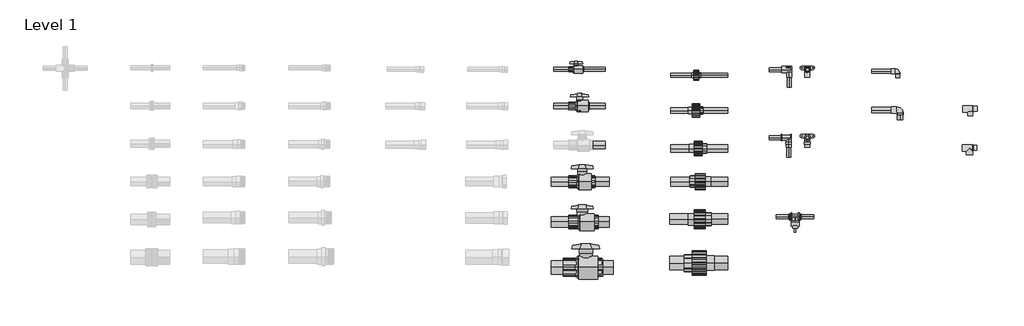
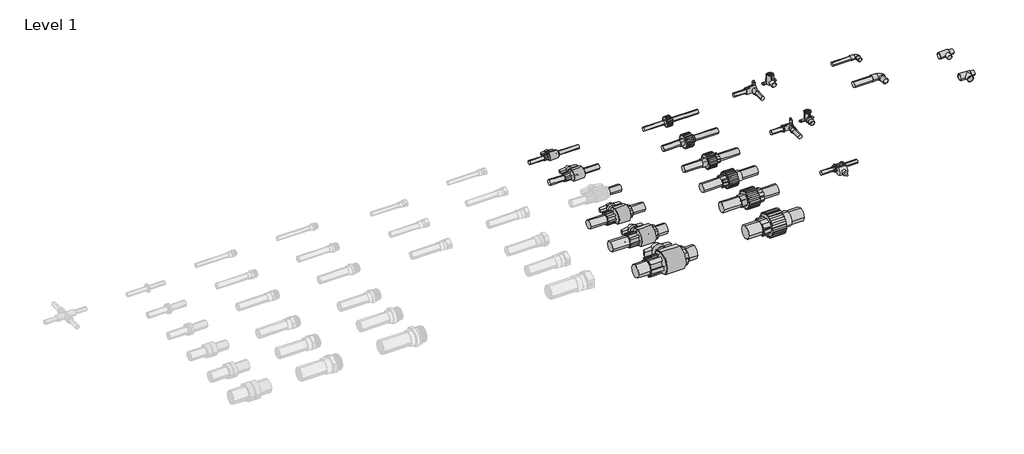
# One storey, part 5 of 5: 31 pipe segments, 16 valves, 4 pipe fittings.
"""IFC4 building model written with IfcOpenShell, lengths in millimetres."""

from ifc_helpers import new_model, si_unit, point, frame, frame_2d, origin, place, context, project, spatial, circle_curve, trimmed, segment, composite_curve, outline, extrude, transform, mapped, element, save
from components import pipe_fitting_17c325e0, pipe_fitting_ff59a37d, pipe_fitting_47772a7b, pipe_fitting_28769ad7, valve_9306bb06, valve_255bd8fb, valve_62a3f878, valve_b7df9ec0, valve_d10ab8b9, valve_b5eff330, valve_8cdd0a93, valve_40f08054, valve_72915398, valve_482ad567, valve_a57cab75, valve_1cd27f9c, valve_4161f7cc, valve_467569c8

model = new_model("IFC4")

# Units and contexts
model_context = context("Model", 3, world=origin())
ifc_project = project(units=[si_unit("LENGTHUNIT", "METRE", prefix="MILLI")], contexts=[model_context])

# Site, building, storey
site = spatial("IfcSite", under=ifc_project)
building = spatial("IfcBuilding", under=site)
storey = spatial("IfcBuildingStorey", under=building, Name="Level 1", Elevation=0.0)

# Pipe fittings
placement = place(None, origin())
pipe_fitting_shape = pipe_fitting_17c325e0(model_context)
element("IfcPipeFitting", 1, ObjectType="Codo Pipa 90°_Lubrizol_CPVC_FlowGuard_MX 13mm : Codo Pipa 90°_Lubrizol_CPVC_FlowGuard_MX 13mm", at=placement, inside=storey, context=model_context, shape_type="MappedRepresentation", body=[
    mapped(pipe_fitting_shape, transform((-8307.6716913, 7227.5621144, -1.6802352), x_axis=(0.0, 1.0000000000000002, 0.0), y_axis=(0.0, 0.0, -1.0000000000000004), z_axis=(-1.0000000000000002, 0.0, 0.0))),
])
pipe_fitting_2_shape = pipe_fitting_ff59a37d(model_context)
element("IfcPipeFitting", 2, ObjectType="Codo Pipa 90°_Lubrizol_CPVC_FlowGuard_MX 19mm : Codo Pipa 90°_Lubrizol_CPVC_FlowGuard_MX 19mm", at=placement, inside=storey, context=model_context, shape_type="MappedRepresentation", body=[
    mapped(pipe_fitting_2_shape, transform((-8297.4805075, 7072.9121126, 1.7832253), x_axis=(0.0, 1.0000000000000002, 0.0), y_axis=(0.0, 0.0, -1.0000000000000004), z_axis=(-1.0000000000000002, 0.0, 0.0))),
])
pipe_fitting_3_shape = pipe_fitting_47772a7b(model_context)
element("IfcPipeFitting", 3, ObjectType="Te Reducida _Lubrizol_CPVC-FlowGuard_MX 19mm x 13mm x13mm : Te Reducida _Lubrizol_CPVC-FlowGuard_MX 19mm x 13mm x13mm", at=placement, inside=storey, context=model_context, shape_type="MappedRepresentation", body=[
    mapped(pipe_fitting_3_shape, transform((-8180.1419649, 6991.7269662, 0.0), x_axis=(1.0, 0.0, 0.0), y_axis=(0.0, 1.0, 0.0), z_axis=(0.0, 0.0, 1.0))),
])
pipe_fitting_4_shape = pipe_fitting_28769ad7(model_context)
element("IfcPipeFitting", 4, ObjectType="Te Reducida _Lubrizol_CPVC-FlowGuard_MX 19mm x 13mm x19mm : Te Reducida _Lubrizol_CPVC-FlowGuard_MX 19mm x 13mm x19mm", at=placement, inside=storey, context=model_context, shape_type="MappedRepresentation", body=[
    mapped(pipe_fitting_4_shape, transform((-8182.2948209, 6837.4091185, 0.0), x_axis=(1.0, 0.0, 0.0), y_axis=(0.0, 1.0, 0.0), z_axis=(0.0, 0.0, 1.0))),
])

# Pipe segments
element("IfcPipeSegment", 5, ObjectType="Lubrizol_Flow Guard SDR 13.5", at=placement, inside=storey, context=model_context, shape_type="SweptSolid", body=[
    extrude(outline(composite_curve([segment(trimmed(circle_curve(frame_2d((6848.4516957, 0.0)), 14.3), [point((6834.1516957, 0.0))], [point((6848.4516957, 14.3))], False, "CARTESIAN"), True, "CONTINUOUS"), segment(trimmed(circle_curve(frame_2d((6848.4516957, 0.0)), 14.3), [point((6848.4516957, 14.3))], [point((6862.7516957, 0.0))], False, "CARTESIAN"), True, "CONTINUOUS"), segment(trimmed(circle_curve(frame_2d((6848.4516957, 0.0)), 14.3), [point((6862.7516957, 0.0))], [point((6848.4516957, -14.3))], False, "CARTESIAN"), True, "CONTINUOUS"), segment(trimmed(circle_curve(frame_2d((6848.4516957, 0.0)), 14.3), [point((6848.4516957, -14.3))], [point((6834.1516957, 0.0))], False, "CARTESIAN"), True, "CONTINUOUS")], self_intersect=False)), frame((-9646.0225291, 0.0, 0.0), z_axis=(1.0, 0.0, 0.0), x_axis=(0.0, 1.0, 0.0)), (0.0, 0.0, 1.0), 50.0),
])
element("IfcPipeSegment", 6, ObjectType="Lubrizol_Flow Guard SDR 13.5", at=placement, inside=storey, context=model_context, shape_type="SweptSolid", body=[
    extrude(outline(composite_curve([segment(trimmed(circle_curve(frame_2d((7003.4516957, 0.0)), 11.1), [point((7014.5516957, 0.0))], [point((7003.4516957, -11.1))], False, "CARTESIAN"), True, "CONTINUOUS"), segment(trimmed(circle_curve(frame_2d((7003.4516957, 0.0)), 11.1), [point((7003.4516957, -11.1))], [point((6992.3516957, 0.0))], False, "CARTESIAN"), True, "CONTINUOUS"), segment(trimmed(circle_curve(frame_2d((7003.4516957, 0.0)), 11.1), [point((6992.3516957, 0.0))], [point((7003.4516957, 11.1))], False, "CARTESIAN"), True, "CONTINUOUS"), segment(trimmed(circle_curve(frame_2d((7003.4516957, 0.0)), 11.1), [point((7003.4516957, 11.1))], [point((7014.5516957, 0.0))], False, "CARTESIAN"), True, "CONTINUOUS")], self_intersect=False)), frame((-9801.0225291, 0.0, 0.0), z_axis=(1.0, 0.0, 0.0), x_axis=(0.0, 1.0, 0.0)), (0.0, 0.0, 1.0), 60.0),
])
element("IfcPipeSegment", 7, ObjectType="Lubrizol_Flow Guard SDR 13.5", at=placement, inside=storey, context=model_context, shape_type="SweptSolid", body=[
    extrude(outline(composite_curve([segment(trimmed(circle_curve(frame_2d((7003.4516957, 0.0)), 11.1), [point((6992.3516957, 0.0))], [point((7003.4516957, 11.1))], False, "CARTESIAN"), True, "CONTINUOUS"), segment(trimmed(circle_curve(frame_2d((7003.4516957, 0.0)), 11.1), [point((7003.4516957, 11.1))], [point((7014.5516957, 0.0))], False, "CARTESIAN"), True, "CONTINUOUS"), segment(trimmed(circle_curve(frame_2d((7003.4516957, 0.0)), 11.1), [point((7014.5516957, 0.0))], [point((7003.4516957, -11.1))], False, "CARTESIAN"), True, "CONTINUOUS"), segment(trimmed(circle_curve(frame_2d((7003.4516957, 0.0)), 11.1), [point((7003.4516957, -11.1))], [point((6992.3516957, 0.0))], False, "CARTESIAN"), True, "CONTINUOUS")], self_intersect=False)), frame((-9660.0225291, 0.0, 0.0), z_axis=(1.0, 0.0, 0.0), x_axis=(0.0, 1.0, 0.0)), (0.0, 0.0, 1.0), 64.0),
])
element("IfcPipeSegment", 8, ObjectType="Lubrizol_Flow Guard SDR 13.5", at=placement, inside=storey, context=model_context, shape_type="SweptSolid", body=[
    extrude(outline(composite_curve([segment(trimmed(circle_curve(frame_2d((7148.4516957, 0.0)), 7.95), [point((7140.5016957, 0.0))], [point((7148.4516957, 7.95))], False, "CARTESIAN"), True, "CONTINUOUS"), segment(trimmed(circle_curve(frame_2d((7148.4516957, 0.0)), 7.95), [point((7148.4516957, 7.95))], [point((7156.4016957, 0.0))], False, "CARTESIAN"), True, "CONTINUOUS"), segment(trimmed(circle_curve(frame_2d((7148.4516957, 0.0)), 7.95), [point((7156.4016957, 0.0))], [point((7148.4516957, -7.95))], False, "CARTESIAN"), True, "CONTINUOUS"), segment(trimmed(circle_curve(frame_2d((7148.4516957, 0.0)), 7.95), [point((7148.4516957, -7.95))], [point((7140.5016957, 0.0))], False, "CARTESIAN"), True, "CONTINUOUS")], self_intersect=False)), frame((-9681.1602986, 0.0, 0.0), z_axis=(1.0, 0.0, 0.0), x_axis=(0.0, 1.0, 0.0)), (0.0, 0.0, 1.0), 85.1377695),
])
element("IfcPipeSegment", 9, ObjectType="Lubrizol_Flow Guard SDR 13.5", at=placement, inside=storey, context=model_context, shape_type="SweptSolid", body=[
    extrude(outline(composite_curve([segment(trimmed(circle_curve(frame_2d((7148.4516957, 0.0)), 7.95), [point((7156.4016957, 0.0))], [point((7148.4516957, -7.95))], False, "CARTESIAN"), True, "CONTINUOUS"), segment(trimmed(circle_curve(frame_2d((7148.4516957, 0.0)), 7.95), [point((7148.4516957, -7.95))], [point((7140.5016957, 0.0))], False, "CARTESIAN"), True, "CONTINUOUS"), segment(trimmed(circle_curve(frame_2d((7148.4516957, 0.0)), 7.95), [point((7140.5016957, 0.0))], [point((7148.4516957, 7.95))], False, "CARTESIAN"), True, "CONTINUOUS"), segment(trimmed(circle_curve(frame_2d((7148.4516957, 0.0)), 7.95), [point((7148.4516957, 7.95))], [point((7156.4016957, 0.0))], False, "CARTESIAN"), True, "CONTINUOUS")], self_intersect=False)), frame((-9801.0225291, 0.0, 0.0), z_axis=(1.0, 0.0, 0.0), x_axis=(0.0, 1.0, 0.0)), (0.0, 0.0, 1.0), 60.0),
])
element("IfcPipeSegment", 10, ObjectType="Lubrizol_Flow Guard SDR 13.5", at=placement, inside=storey, context=model_context, shape_type="SweptSolid", body=[
    extrude(outline(composite_curve([segment(trimmed(circle_curve(frame_2d((6703.4516957, 0.0)), 17.45), [point((6686.0016957, 0.0))], [point((6703.4516957, 17.45))], False, "CARTESIAN"), True, "CONTINUOUS"), segment(trimmed(circle_curve(frame_2d((6703.4516957, 0.0)), 17.45), [point((6703.4516957, 17.45))], [point((6720.9016957, 0.0))], False, "CARTESIAN"), True, "CONTINUOUS"), segment(trimmed(circle_curve(frame_2d((6703.4516957, 0.0)), 17.45), [point((6720.9016957, 0.0))], [point((6703.4516957, -17.45))], False, "CARTESIAN"), True, "CONTINUOUS"), segment(trimmed(circle_curve(frame_2d((6703.4516957, 0.0)), 17.45), [point((6703.4516957, -17.45))], [point((6686.0016957, 0.0))], False, "CARTESIAN"), True, "CONTINUOUS")], self_intersect=False)), frame((-9636.6475291, 0.0, 0.0), z_axis=(1.0, 0.0, 0.0), x_axis=(0.0, 1.0, 0.0)), (0.0, 0.0, 1.0), 55.0),
])
element("IfcPipeSegment", 11, ObjectType="Lubrizol_Flow Guard SDR 13.5", at=placement, inside=storey, context=model_context, shape_type="SweptSolid", body=[
    extrude(outline(composite_curve([segment(trimmed(circle_curve(frame_2d((6703.4516957, 0.0)), 17.45), [point((6720.9016957, 0.0))], [point((6703.4516957, -17.45))], False, "CARTESIAN"), True, "CONTINUOUS"), segment(trimmed(circle_curve(frame_2d((6703.4516957, 0.0)), 17.45), [point((6703.4516957, -17.45))], [point((6686.0016957, 0.0))], False, "CARTESIAN"), True, "CONTINUOUS"), segment(trimmed(circle_curve(frame_2d((6703.4516957, 0.0)), 17.45), [point((6686.0016957, 0.0))], [point((6703.4516957, 17.45))], False, "CARTESIAN"), True, "CONTINUOUS"), segment(trimmed(circle_curve(frame_2d((6703.4516957, 0.0)), 17.45), [point((6703.4516957, 17.45))], [point((6720.9016957, 0.0))], False, "CARTESIAN"), True, "CONTINUOUS")], self_intersect=False)), frame((-9811.0225291, 0.0, 0.0), z_axis=(1.0, 0.0, 0.0), x_axis=(0.0, 1.0, 0.0)), (0.0, 0.0, 1.0), 70.0),
])
element("IfcPipeSegment", 12, ObjectType="Lubrizol_Flow Guard SDR 13.5", at=placement, inside=storey, context=model_context, shape_type="SweptSolid", body=[
    extrude(outline(composite_curve([segment(trimmed(circle_curve(frame_2d((6543.4516957, 0.0)), 20.65), [point((6564.1016957, 0.0))], [point((6543.4516957, -20.65))], False, "CARTESIAN"), True, "CONTINUOUS"), segment(trimmed(circle_curve(frame_2d((6543.4516957, 0.0)), 20.65), [point((6543.4516957, -20.65))], [point((6522.8016957, 0.0))], False, "CARTESIAN"), True, "CONTINUOUS"), segment(trimmed(circle_curve(frame_2d((6543.4516957, 0.0)), 20.65), [point((6522.8016957, 0.0))], [point((6543.4516957, 20.65))], False, "CARTESIAN"), True, "CONTINUOUS"), segment(trimmed(circle_curve(frame_2d((6543.4516957, 0.0)), 20.65), [point((6543.4516957, 20.65))], [point((6564.1016957, 0.0))], False, "CARTESIAN"), True, "CONTINUOUS")], self_intersect=False)), frame((-9811.0225291, 0.0, 0.0), z_axis=(1.0, 0.0, 0.0), x_axis=(0.0, 1.0, 0.0)), (0.0, 0.0, 1.0), 70.0),
])
element("IfcPipeSegment", 13, ObjectType="Lubrizol_Flow Guard SDR 13.5", at=placement, inside=storey, context=model_context, shape_type="SweptSolid", body=[
    extrude(outline(composite_curve([segment(trimmed(circle_curve(frame_2d((6543.4516957, 0.0)), 20.65), [point((6522.8016957, 0.0))], [point((6543.4516957, 20.65))], False, "CARTESIAN"), True, "CONTINUOUS"), segment(trimmed(circle_curve(frame_2d((6543.4516957, 0.0)), 20.65), [point((6543.4516957, 20.65))], [point((6564.1016957, 0.0))], False, "CARTESIAN"), True, "CONTINUOUS"), segment(trimmed(circle_curve(frame_2d((6543.4516957, 0.0)), 20.65), [point((6564.1016957, 0.0))], [point((6543.4516957, -20.65))], False, "CARTESIAN"), True, "CONTINUOUS"), segment(trimmed(circle_curve(frame_2d((6543.4516957, 0.0)), 20.65), [point((6543.4516957, -20.65))], [point((6522.8016957, 0.0))], False, "CARTESIAN"), True, "CONTINUOUS")], self_intersect=False)), frame((-9625.3975291, 0.0, 0.0), z_axis=(1.0, 0.0, 0.0), x_axis=(0.0, 1.0, 0.0)), (0.0, 0.0, 1.0), 43.75),
])
element("IfcPipeSegment", 14, ObjectType="Lubrizol_Flow Guard SDR 13.5", at=placement, inside=storey, context=model_context, shape_type="SweptSolid", body=[
    extrude(outline(composite_curve([segment(trimmed(circle_curve(frame_2d((6363.4516957, 0.0)), 27.0), [point((6390.4516957, 0.0))], [point((6363.4516957, -27.0))], False, "CARTESIAN"), True, "CONTINUOUS"), segment(trimmed(circle_curve(frame_2d((6363.4516957, 0.0)), 27.0), [point((6363.4516957, -27.0))], [point((6336.4516957, 0.0))], False, "CARTESIAN"), True, "CONTINUOUS"), segment(trimmed(circle_curve(frame_2d((6363.4516957, 0.0)), 27.0), [point((6336.4516957, 0.0))], [point((6363.4516957, 27.0))], False, "CARTESIAN"), True, "CONTINUOUS"), segment(trimmed(circle_curve(frame_2d((6363.4516957, 0.0)), 27.0), [point((6363.4516957, 27.0))], [point((6390.4516957, 0.0))], False, "CARTESIAN"), True, "CONTINUOUS")], self_intersect=False)), frame((-9811.0225291, 0.0, 0.0), z_axis=(1.0, 0.0, 0.0), x_axis=(0.0, 1.0, 0.0)), (0.0, 0.0, 1.0), 48.75),
])
element("IfcPipeSegment", 15, ObjectType="Lubrizol_Flow Guard SDR 13.5", at=placement, inside=storey, context=model_context, shape_type="SweptSolid", body=[
    extrude(outline(composite_curve([segment(trimmed(circle_curve(frame_2d((6363.4516957, 0.0)), 27.0), [point((6336.4516957, 0.0))], [point((6363.4516957, 27.0))], False, "CARTESIAN"), True, "CONTINUOUS"), segment(trimmed(circle_curve(frame_2d((6363.4516957, 0.0)), 27.0), [point((6363.4516957, 27.0))], [point((6390.4516957, 0.0))], False, "CARTESIAN"), True, "CONTINUOUS"), segment(trimmed(circle_curve(frame_2d((6363.4516957, 0.0)), 27.0), [point((6390.4516957, 0.0))], [point((6363.4516957, -27.0))], False, "CARTESIAN"), True, "CONTINUOUS"), segment(trimmed(circle_curve(frame_2d((6363.4516957, 0.0)), 27.0), [point((6363.4516957, -27.0))], [point((6336.4516957, 0.0))], False, "CARTESIAN"), True, "CONTINUOUS")], self_intersect=False)), frame((-9605.6058624, 0.0, 0.0), z_axis=(1.0, 0.0, 0.0), x_axis=(0.0, 1.0, 0.0)), (0.0, 0.0, 1.0), 40.0),
])
element("IfcPipeSegment", 16, ObjectType="Lubrizol_Flow Guard SDR 13.5", at=placement, inside=storey, context=model_context, shape_type="SweptSolid", body=[
    extrude(outline(composite_curve([segment(trimmed(circle_curve(frame_2d((6703.4516957, -3.8)), 17.45), [point((6686.0016957, -3.8))], [point((6703.4516957, 13.65))], False, "CARTESIAN"), True, "CONTINUOUS"), segment(trimmed(circle_curve(frame_2d((6703.4516957, -3.8)), 17.45), [point((6703.4516957, 13.65))], [point((6720.9016957, -3.8))], False, "CARTESIAN"), True, "CONTINUOUS"), segment(trimmed(circle_curve(frame_2d((6703.4516957, -3.8)), 17.45), [point((6720.9016957, -3.8))], [point((6703.4516957, -21.25))], False, "CARTESIAN"), True, "CONTINUOUS"), segment(trimmed(circle_curve(frame_2d((6703.4516957, -3.8)), 17.45), [point((6703.4516957, -21.25))], [point((6686.0016957, -3.8))], False, "CARTESIAN"), True, "CONTINUOUS")], self_intersect=False)), frame((-9218.1492485, 0.0, 0.0), z_axis=(1.0, 0.0, 0.0), x_axis=(0.0, 1.0, 0.0)), (0.0, 0.0, 1.0), 107.213759),
])
element("IfcPipeSegment", 17, ObjectType="Lubrizol_Flow Guard SDR 13.5", at=placement, inside=storey, context=model_context, shape_type="SweptSolid", body=[
    extrude(outline(composite_curve([segment(trimmed(circle_curve(frame_2d((6703.4516957, -3.8)), 17.45), [point((6720.9016957, -3.8))], [point((6703.4516957, -21.25))], False, "CARTESIAN"), True, "CONTINUOUS"), segment(trimmed(circle_curve(frame_2d((6703.4516957, -3.8)), 17.45), [point((6703.4516957, -21.25))], [point((6686.0016957, -3.8))], False, "CARTESIAN"), True, "CONTINUOUS"), segment(trimmed(circle_curve(frame_2d((6703.4516957, -3.8)), 17.45), [point((6686.0016957, -3.8))], [point((6703.4516957, 13.65))], False, "CARTESIAN"), True, "CONTINUOUS"), segment(trimmed(circle_curve(frame_2d((6703.4516957, -3.8)), 17.45), [point((6703.4516957, 13.65))], [point((6720.9016957, -3.8))], False, "CARTESIAN"), True, "CONTINUOUS")], self_intersect=False)), frame((-9337.6612879, 0.0, 0.0), z_axis=(1.0, 0.0, 0.0), x_axis=(0.0, 1.0, 0.0)), (0.0, 0.0, 1.0), 98.645782),
])
element("IfcPipeSegment", 18, ObjectType="Lubrizol_Flow Guard SDR 13.5", at=placement, inside=storey, context=model_context, shape_type="SweptSolid", body=[
    extrude(outline(composite_curve([segment(trimmed(circle_curve(frame_2d((0.0, 20.65)), 20.65), [point((-20.65, 20.65))], [point((0.0, 41.3))], False, "CARTESIAN"), True, "CONTINUOUS"), segment(trimmed(circle_curve(frame_2d((0.0, 20.65)), 20.65), [point((0.0, 41.3))], [point((20.65, 20.65))], False, "CARTESIAN"), True, "CONTINUOUS"), segment(trimmed(circle_curve(frame_2d((0.0, 20.65)), 20.65), [point((20.65, 20.65))], [point((0.0, 0.0))], False, "CARTESIAN"), True, "CONTINUOUS"), segment(trimmed(circle_curve(frame_2d((0.0, 20.65)), 20.65), [point((0.0, 0.0))], [point((-20.65, 20.65))], False, "CARTESIAN"), True, "CONTINUOUS")], self_intersect=False)), frame((-9200.1920613, 6554.5298171, -19.2698831), z_axis=(0.9999999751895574, 0.0, 0.00022275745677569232), x_axis=(0.0, 1.0, 0.0)), (0.0, 0.0, 1.0), 89.261174),
])
element("IfcPipeSegment", 19, ObjectType="Lubrizol_Flow Guard SDR 13.5", at=placement, inside=storey, context=model_context, shape_type="SweptSolid", body=[
    extrude(outline(composite_curve([segment(trimmed(circle_curve(frame_2d((0.0, 20.65)), 20.65), [point((-20.65, 20.65))], [point((0.0, 41.3000001))], False, "CARTESIAN"), True, "CONTINUOUS"), segment(trimmed(circle_curve(frame_2d((0.0, 20.65)), 20.65), [point((0.0, 41.3000001))], [point((20.65, 20.65))], False, "CARTESIAN"), True, "CONTINUOUS"), segment(trimmed(circle_curve(frame_2d((0.0, 20.65)), 20.65), [point((20.65, 20.65))], [point((0.0, 0.0))], False, "CARTESIAN"), True, "CONTINUOUS"), segment(trimmed(circle_curve(frame_2d((0.0, 20.65)), 20.65), [point((0.0, 0.0))], [point((-20.65, 20.65))], False, "CARTESIAN"), True, "CONTINUOUS")], self_intersect=False)), frame((-9244.4163548, 6554.5298171, -19.2698832), z_axis=(-0.9999999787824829, 0.0, 0.00020599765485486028), x_axis=(0.0, -1.0, 0.0)), (0.0, 0.0, 1.0), 96.5233906),
])
element("IfcPipeSegment", 20, ObjectType="Lubrizol_Flow Guard SDR 13.5", at=placement, inside=storey, context=model_context, shape_type="SweptSolid", body=[
    extrude(outline(composite_curve([segment(trimmed(circle_curve(frame_2d((0.0, -27.0)), 27.0), [point((-27.0, -27.0))], [point((0.0, 0.0))], False, "CARTESIAN"), True, "CONTINUOUS"), segment(trimmed(circle_curve(frame_2d((0.0, -27.0)), 27.0), [point((0.0, 0.0))], [point((27.0, -27.0))], False, "CARTESIAN"), True, "CONTINUOUS"), segment(trimmed(circle_curve(frame_2d((0.0, -27.0)), 27.0), [point((27.0, -27.0))], [point((0.0, -54.0))], False, "CARTESIAN"), True, "CONTINUOUS"), segment(trimmed(circle_curve(frame_2d((0.0, -27.0)), 27.0), [point((0.0, -54.0))], [point((-27.0, -27.0))], False, "CARTESIAN"), True, "CONTINUOUS")], self_intersect=False)), frame((-9110.9428488, 6380.4516957, -29.399999), z_axis=(-0.9999999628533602, 0.0, 0.00027256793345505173), x_axis=(0.0, 1.0, 0.0)), (0.0, 0.0, 1.0), 85.3157827),
])
element("IfcPipeSegment", 21, ObjectType="Lubrizol_Flow Guard SDR 13.5", at=placement, inside=storey, context=model_context, shape_type="SweptSolid", body=[
    extrude(outline(composite_curve([segment(trimmed(circle_curve(frame_2d((0.0, -27.0)), 27.0), [point((-27.0, -27.0))], [point((0.0, 0.0))], False, "CARTESIAN"), True, "CONTINUOUS"), segment(trimmed(circle_curve(frame_2d((0.0, -27.0)), 27.0), [point((0.0, 0.0))], [point((27.0, -27.0))], False, "CARTESIAN"), True, "CONTINUOUS"), segment(trimmed(circle_curve(frame_2d((0.0, -27.0)), 27.0), [point((27.0, -27.0))], [point((0.0, -54.0000001))], False, "CARTESIAN"), True, "CONTINUOUS"), segment(trimmed(circle_curve(frame_2d((0.0, -27.0)), 27.0), [point((0.0, -54.0000001))], [point((-27.0, -27.0))], False, "CARTESIAN"), True, "CONTINUOUS")], self_intersect=False)), frame((-9340.9237703, 6380.4516957, -29.3999979), z_axis=(0.9999999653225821, 0.0, 0.00026335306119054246), x_axis=(0.0, -1.0, 0.0)), (0.0, 0.0, 1.0), 88.2964215),
])
element("IfcPipeSegment", 22, ObjectType="Lubrizol_Flow Guard SDR 13.5", at=placement, inside=storey, context=model_context, shape_type="SweptSolid", body=[
    extrude(outline(composite_curve([segment(trimmed(circle_curve(frame_2d((-0.1, -8867.6853273)), 7.95), [point((-0.1, -8875.6353273))], [point((-8.05, -8867.6853273))], False, "CARTESIAN"), True, "CONTINUOUS"), segment(trimmed(circle_curve(frame_2d((-0.1, -8867.6853273)), 7.95), [point((-8.05, -8867.6853273))], [point((-0.1, -8859.7353273))], False, "CARTESIAN"), True, "CONTINUOUS"), segment(trimmed(circle_curve(frame_2d((-0.1, -8867.6853273)), 7.95), [point((-0.1, -8859.7353273))], [point((7.85, -8867.6853273))], False, "CARTESIAN"), True, "CONTINUOUS"), segment(trimmed(circle_curve(frame_2d((-0.1, -8867.6853273)), 7.95), [point((7.85, -8867.6853273))], [point((-0.1, -8875.6353273))], False, "CARTESIAN"), True, "CONTINUOUS")], self_intersect=False)), frame((0.0, 7077.4672715, 0.0), z_axis=(0.0, 1.0, 0.0), x_axis=(0.0, 0.0, 1.0)), (0.0, 0.0, 1.0), 39.999982),
])
element("IfcPipeSegment", 23, ObjectType="Lubrizol_Flow Guard SDR 13.5", at=placement, inside=storey, context=model_context, shape_type="SweptSolid", body=[
    extrude(outline(composite_curve([segment(trimmed(circle_curve(frame_2d((7147.6469273, -0.1)), 7.95), [point((7155.5969273, -0.1))], [point((7147.6469273, -8.05))], False, "CARTESIAN"), True, "CONTINUOUS"), segment(trimmed(circle_curve(frame_2d((7147.6469273, -0.1)), 7.95), [point((7147.6469273, -8.05))], [point((7139.6969273, -0.1))], False, "CARTESIAN"), True, "CONTINUOUS"), segment(trimmed(circle_curve(frame_2d((7147.6469273, -0.1)), 7.95), [point((7139.6969273, -0.1))], [point((7147.6469273, 7.85))], False, "CARTESIAN"), True, "CONTINUOUS"), segment(trimmed(circle_curve(frame_2d((7147.6469273, -0.1)), 7.95), [point((7147.6469273, 7.85))], [point((7155.5969273, -0.1))], False, "CARTESIAN"), True, "CONTINUOUS")], self_intersect=False)), frame((-8947.6343148, 0.0, 0.0), z_axis=(1.0, 0.0, 0.0), x_axis=(0.0, 1.0, 0.0)), (0.0, 0.0, 1.0), 50.0),
])
element("IfcPipeSegment", 24, ObjectType="Lubrizol_Flow Guard SDR 13.5", at=placement, inside=storey, context=model_context, shape_type="SweptSolid", body=[
    extrude(outline(composite_curve([segment(trimmed(circle_curve(frame_2d((0.0, 7.95)), 7.95), [point((-7.95, 7.95))], [point((0.0, 15.9))], False, "CARTESIAN"), True, "CONTINUOUS"), segment(trimmed(circle_curve(frame_2d((0.0, 7.95)), 7.95), [point((0.0, 15.9))], [point((7.95, 7.95))], False, "CARTESIAN"), True, "CONTINUOUS"), segment(trimmed(circle_curve(frame_2d((0.0, 7.95)), 7.95), [point((7.95, 7.95))], [point((0.0, 0.0))], False, "CARTESIAN"), True, "CONTINUOUS"), segment(trimmed(circle_curve(frame_2d((0.0, 7.95)), 7.95), [point((0.0, 0.0))], [point((-7.95, 7.95))], False, "CARTESIAN"), True, "CONTINUOUS")], self_intersect=False)), frame((-8899.5740877, 6877.0601307, -8.8635405), z_axis=(-0.9999999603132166, 0.0, 0.00028173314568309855), x_axis=(0.0, -1.0, 0.0)), (0.0, 0.0, 1.0), 48.0624688),
])
element("IfcPipeSegment", 25, ObjectType="Lubrizol_Flow Guard SDR 13.5", at=placement, inside=storey, context=model_context, shape_type="SweptSolid", body=[
    extrude(outline(composite_curve([segment(trimmed(circle_curve(frame_2d((0.0, 7.95)), 7.95), [point((0.0, 0.0))], [point((-7.9500001, 7.95))], False, "CARTESIAN"), True, "CONTINUOUS"), segment(trimmed(circle_curve(frame_2d((0.0, 7.95)), 7.95), [point((-7.9500001, 7.95))], [point((0.0, 15.9))], False, "CARTESIAN"), True, "CONTINUOUS"), segment(trimmed(circle_curve(frame_2d((0.0, 7.95)), 7.95), [point((0.0, 15.9))], [point((7.95, 7.95))], False, "CARTESIAN"), True, "CONTINUOUS"), segment(trimmed(circle_curve(frame_2d((0.0, 7.95)), 7.95), [point((7.95, 7.95))], [point((0.0, 0.0))], False, "CARTESIAN"), True, "CONTINUOUS")], self_intersect=False)), frame((-8877.5728605, 6840.3065692, -0.9135408), z_axis=(0.0, -0.9999999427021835, 0.00033851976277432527), x_axis=(0.0, -0.00033851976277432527, -0.9999999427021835)), (0.0, 0.0, 1.0), 40.0067704),
])
element("IfcPipeSegment", 26, ObjectType="Lubrizol_Flow Guard SDR 13.5", at=placement, inside=storey, context=model_context, shape_type="SweptSolid", body=[
    extrude(outline(composite_curve([segment(trimmed(circle_curve(frame_2d((6564.1016957, 0.0)), 7.95), [point((6572.0516957, 0.0))], [point((6564.1016957, -7.95))], False, "CARTESIAN"), True, "CONTINUOUS"), segment(trimmed(circle_curve(frame_2d((6564.1016957, 0.0)), 7.95), [point((6564.1016957, -7.95))], [point((6556.1516957, 0.0))], False, "CARTESIAN"), True, "CONTINUOUS"), segment(trimmed(circle_curve(frame_2d((6564.1016957, 0.0)), 7.95), [point((6556.1516957, 0.0))], [point((6564.1016957, 7.95))], False, "CARTESIAN"), True, "CONTINUOUS"), segment(trimmed(circle_curve(frame_2d((6564.1016957, 0.0)), 7.95), [point((6564.1016957, 7.95))], [point((6572.0516957, 0.0))], False, "CARTESIAN"), True, "CONTINUOUS")], self_intersect=False)), frame((-8919.7353273, 0.0, 0.0), z_axis=(1.0, 0.0, 0.0), x_axis=(0.0, 1.0, 0.0)), (0.0, 0.0, 1.0), 50.0),
])
element("IfcPipeSegment", 27, ObjectType="Lubrizol_Flow Guard SDR 13.5", at=placement, inside=storey, context=model_context, shape_type="SweptSolid", body=[
    extrude(outline(composite_curve([segment(trimmed(circle_curve(frame_2d((6564.1016957, 0.0)), 7.95), [point((6556.1516957, 0.0))], [point((6564.1016957, 7.95))], False, "CARTESIAN"), True, "CONTINUOUS"), segment(trimmed(circle_curve(frame_2d((6564.1016957, 0.0)), 7.95), [point((6564.1016957, 7.95))], [point((6572.0516957, 0.0))], False, "CARTESIAN"), True, "CONTINUOUS"), segment(trimmed(circle_curve(frame_2d((6564.1016957, 0.0)), 7.95), [point((6572.0516957, 0.0))], [point((6564.1016957, -7.95))], False, "CARTESIAN"), True, "CONTINUOUS"), segment(trimmed(circle_curve(frame_2d((6564.1016957, 0.0)), 7.95), [point((6564.1016957, -7.95))], [point((6556.1516957, 0.0))], False, "CARTESIAN"), True, "CONTINUOUS")], self_intersect=False)), frame((-8819.7353273, 0.0, 0.0), z_axis=(1.0, 0.0, 0.0), x_axis=(0.0, 1.0, 0.0)), (0.0, 0.0, 1.0), 50.0),
])
element("IfcPipeSegment", 28, ObjectType="Lubrizol_Flow Guard SDR 13.5", at=placement, inside=storey, context=model_context, shape_type="SweptSolid", body=[
    extrude(outline(composite_curve([segment(trimmed(circle_curve(frame_2d((0.0, -7.95)), 7.95), [point((-7.95, -7.95))], [point((0.0, 0.0))], False, "CARTESIAN"), True, "CONTINUOUS"), segment(trimmed(circle_curve(frame_2d((0.0, -7.95)), 7.95), [point((0.0, 0.0))], [point((7.95, -7.95))], False, "CARTESIAN"), True, "CONTINUOUS"), segment(trimmed(circle_curve(frame_2d((0.0, -7.95)), 7.95), [point((7.95, -7.95))], [point((0.0, -15.9))], False, "CARTESIAN"), True, "CONTINUOUS"), segment(trimmed(circle_curve(frame_2d((0.0, -7.95)), 7.95), [point((0.0, -15.9))], [point((-7.95, -7.95))], False, "CARTESIAN"), True, "CONTINUOUS")], self_intersect=False)), frame((-8539.6899671, 7141.3078081, -9.6552585), z_axis=(0.9999999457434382, 0.0, 0.0003294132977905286), x_axis=(0.0, -1.0, 0.0)), (0.0, 0.0, 1.0), 75.9645944),
])
element("IfcPipeSegment", 29, ObjectType="Lubrizol_Flow Guard SDR 13.5", at=placement, inside=storey, context=model_context, shape_type="SweptSolid", body=[
    extrude(outline(composite_curve([segment(trimmed(circle_curve(frame_2d((0.0, 11.1000001)), 11.1), [point((-11.1, 11.1000001))], [point((0.0, 22.2))], False, "CARTESIAN"), True, "CONTINUOUS"), segment(trimmed(circle_curve(frame_2d((0.0, 11.1000001)), 11.1), [point((0.0, 22.2))], [point((11.1, 11.1000001))], False, "CARTESIAN"), True, "CONTINUOUS"), segment(trimmed(circle_curve(frame_2d((0.0, 11.1000001)), 11.1), [point((11.1, 11.1000001))], [point((0.0, 0.0))], False, "CARTESIAN"), True, "CONTINUOUS"), segment(trimmed(circle_curve(frame_2d((0.0, 11.1000001)), 11.1), [point((0.0, 0.0))], [point((-11.1, 11.1000001))], False, "CARTESIAN"), True, "CONTINUOUS")], self_intersect=False)), frame((-8463.5661786, 6986.6578062, -9.3167745), z_axis=(-0.9999999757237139, 0.0, 0.00022034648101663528), x_axis=(0.0, -1.0, 0.0)), (0.0, 0.0, 1.0), 76.128855),
])
element("IfcPipeSegment", 30, ObjectType="Lubrizol_Flow Guard SDR 13.5", at=placement, inside=storey, context=model_context, shape_type="SweptSolid", body=[
    extrude(outline(composite_curve([segment(trimmed(circle_curve(frame_2d((7124.731293, 0.0)), 7.95), [point((7116.781293, 0.0))], [point((7124.731293, 7.95))], False, "CARTESIAN"), True, "CONTINUOUS"), segment(trimmed(circle_curve(frame_2d((7124.731293, 0.0)), 7.95), [point((7124.731293, 7.95))], [point((7132.681293, 0.0))], False, "CARTESIAN"), True, "CONTINUOUS"), segment(trimmed(circle_curve(frame_2d((7124.731293, 0.0)), 7.95), [point((7132.681293, 0.0))], [point((7124.731293, -7.95))], False, "CARTESIAN"), True, "CONTINUOUS"), segment(trimmed(circle_curve(frame_2d((7124.731293, 0.0)), 7.95), [point((7124.731293, -7.95))], [point((7116.781293, 0.0))], False, "CARTESIAN"), True, "CONTINUOUS")], self_intersect=False)), frame((-9226.1593633, 0.0, 0.0), z_axis=(1.0, 0.0, 0.0), x_axis=(0.0, 1.0, 0.0)), (0.0, 0.0, 1.0), 115.2238738),
])
element("IfcPipeSegment", 31, ObjectType="Lubrizol_Flow Guard SDR 13.5", at=placement, inside=storey, context=model_context, shape_type="SweptSolid", body=[
    extrude(outline(composite_curve([segment(trimmed(circle_curve(frame_2d((7124.731293, 0.0)), 7.95), [point((7132.681293, 0.0))], [point((7124.731293, -7.95))], False, "CARTESIAN"), True, "CONTINUOUS"), segment(trimmed(circle_curve(frame_2d((7124.731293, 0.0)), 7.95), [point((7124.731293, -7.95))], [point((7116.781293, 0.0))], False, "CARTESIAN"), True, "CONTINUOUS"), segment(trimmed(circle_curve(frame_2d((7124.731293, 0.0)), 7.95), [point((7116.781293, 0.0))], [point((7124.731293, 7.95))], False, "CARTESIAN"), True, "CONTINUOUS"), segment(trimmed(circle_curve(frame_2d((7124.731293, 0.0)), 7.95), [point((7124.731293, 7.95))], [point((7132.681293, 0.0))], False, "CARTESIAN"), True, "CONTINUOUS")], self_intersect=False)), frame((-9337.6612879, 0.0, 0.0), z_axis=(1.0, 0.0, 0.0), x_axis=(0.0, 1.0, 0.0)), (0.0, 0.0, 1.0), 91.5019246),
])
element("IfcPipeSegment", 32, ObjectType="Lubrizol_Flow Guard SDR 13.5", at=placement, inside=storey, context=model_context, shape_type="SweptSolid", body=[
    extrude(outline(composite_curve([segment(trimmed(circle_curve(frame_2d((6984.731293, 0.0)), 11.1), [point((6973.631293, 0.0))], [point((6984.731293, 11.1))], False, "CARTESIAN"), True, "CONTINUOUS"), segment(trimmed(circle_curve(frame_2d((6984.731293, 0.0)), 11.1), [point((6984.731293, 11.1))], [point((6995.831293, 0.0))], False, "CARTESIAN"), True, "CONTINUOUS"), segment(trimmed(circle_curve(frame_2d((6984.731293, 0.0)), 11.1), [point((6995.831293, 0.0))], [point((6984.731293, -11.1))], False, "CARTESIAN"), True, "CONTINUOUS"), segment(trimmed(circle_curve(frame_2d((6984.731293, 0.0)), 11.1), [point((6984.731293, -11.1))], [point((6973.631293, 0.0))], False, "CARTESIAN"), True, "CONTINUOUS")], self_intersect=False)), frame((-9221.7198961, 0.0, 0.0), z_axis=(1.0, 0.0, 0.0), x_axis=(0.0, 1.0, 0.0)), (0.0, 0.0, 1.0), 110.7844067),
])
element("IfcPipeSegment", 33, ObjectType="Lubrizol_Flow Guard SDR 13.5", at=placement, inside=storey, context=model_context, shape_type="SweptSolid", body=[
    extrude(outline(composite_curve([segment(trimmed(circle_curve(frame_2d((6984.731293, 0.0)), 11.1), [point((6995.831293, 0.0))], [point((6984.731293, -11.1))], False, "CARTESIAN"), True, "CONTINUOUS"), segment(trimmed(circle_curve(frame_2d((6984.731293, 0.0)), 11.1), [point((6984.731293, -11.1))], [point((6973.631293, 0.0))], False, "CARTESIAN"), True, "CONTINUOUS"), segment(trimmed(circle_curve(frame_2d((6984.731293, 0.0)), 11.1), [point((6973.631293, 0.0))], [point((6984.731293, 11.1))], False, "CARTESIAN"), True, "CONTINUOUS"), segment(trimmed(circle_curve(frame_2d((6984.731293, 0.0)), 11.1), [point((6984.731293, 11.1))], [point((6995.831293, 0.0))], False, "CARTESIAN"), True, "CONTINUOUS")], self_intersect=False)), frame((-9337.6612879, 0.0, 0.0), z_axis=(1.0, 0.0, 0.0), x_axis=(0.0, 1.0, 0.0)), (0.0, 0.0, 1.0), 85.9413918),
])
element("IfcPipeSegment", 34, ObjectType="Lubrizol_Flow Guard SDR 13.5", at=placement, inside=storey, context=model_context, shape_type="SweptSolid", body=[
    extrude(outline(composite_curve([segment(trimmed(circle_curve(frame_2d((6834.731293, 0.0)), 14.3), [point((6820.431293, 0.0))], [point((6834.731293, 14.3))], False, "CARTESIAN"), True, "CONTINUOUS"), segment(trimmed(circle_curve(frame_2d((6834.731293, 0.0)), 14.3), [point((6834.731293, 14.3))], [point((6849.031293, 0.0))], False, "CARTESIAN"), True, "CONTINUOUS"), segment(trimmed(circle_curve(frame_2d((6834.731293, 0.0)), 14.3), [point((6849.031293, 0.0))], [point((6834.731293, -14.3))], False, "CARTESIAN"), True, "CONTINUOUS"), segment(trimmed(circle_curve(frame_2d((6834.731293, 0.0)), 14.3), [point((6834.731293, -14.3))], [point((6820.431293, 0.0))], False, "CARTESIAN"), True, "CONTINUOUS")], self_intersect=False)), frame((-9212.5978032, 0.0, 0.0), z_axis=(1.0, 0.0, 0.0), x_axis=(0.0, 1.0, 0.0)), (0.0, 0.0, 1.0), 101.6623137),
])
element("IfcPipeSegment", 35, ObjectType="Lubrizol_Flow Guard SDR 13.5", at=placement, inside=storey, context=model_context, shape_type="SweptSolid", body=[
    extrude(outline(composite_curve([segment(trimmed(circle_curve(frame_2d((6834.731293, 0.0)), 14.3), [point((6849.031293, 0.0))], [point((6834.731293, -14.3))], False, "CARTESIAN"), True, "CONTINUOUS"), segment(trimmed(circle_curve(frame_2d((6834.731293, 0.0)), 14.3), [point((6834.731293, -14.3))], [point((6820.431293, 0.0))], False, "CARTESIAN"), True, "CONTINUOUS"), segment(trimmed(circle_curve(frame_2d((6834.731293, 0.0)), 14.3), [point((6820.431293, 0.0))], [point((6834.731293, 14.3))], False, "CARTESIAN"), True, "CONTINUOUS"), segment(trimmed(circle_curve(frame_2d((6834.731293, 0.0)), 14.3), [point((6834.731293, 14.3))], [point((6849.031293, 0.0))], False, "CARTESIAN"), True, "CONTINUOUS")], self_intersect=False)), frame((-9337.6612879, 0.0, 0.0), z_axis=(1.0, 0.0, 0.0), x_axis=(0.0, 1.0, 0.0)), (0.0, 0.0, 1.0), 100.9413918),
])

# Valves
valve_shape = valve_9306bb06(model_context)
element("IfcValve", 36, ObjectType="Valvula Bola_Lubrizol_CPVC_FlowGuard_MX 19mm : Valvula Bola_Lubrizol_CPVC_FlowGuard_MX 19mm", at=placement, inside=storey, context=model_context, shape_type="MappedRepresentation", body=[
    mapped(valve_shape, transform((-9706.0225291, 7003.4516957, 0.0), x_axis=(1.0000000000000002, 0.0, 0.0), y_axis=(0.0, 0.0, -1.0000000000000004), z_axis=(0.0, 1.0000000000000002, 0.0))),
])
valve_2_shape = valve_255bd8fb(model_context)
element("IfcValve", 37, ObjectType="Valvula Bola_Lubrizol_CPVC_FlowGuard_MX 13mm : Valvula Bola_Lubrizol_CPVC_FlowGuard_MX 13mm", at=placement, inside=storey, context=model_context, shape_type="MappedRepresentation", body=[
    mapped(valve_2_shape, transform((-9706.0225291, 7148.4516957, 0.0), x_axis=(1.0000000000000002, 0.0, 0.0), y_axis=(0.0, 0.0, -1.0000000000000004), z_axis=(0.0, 1.0000000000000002, 0.0))),
])
valve_3_shape = valve_62a3f878(model_context)
element("IfcValve", 38, ObjectType="Valvula Bola_Lubrizol_CPVC_FlowGuard_MX 32mm : Valvula Bola_Lubrizol_CPVC_FlowGuard_MX 32mm", at=placement, inside=storey, context=model_context, shape_type="MappedRepresentation", body=[
    mapped(valve_3_shape, transform((-9706.0225291, 6703.4516957, 0.0), x_axis=(1.0000000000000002, 0.0, 0.0), y_axis=(0.0, 0.0, -1.0000000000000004), z_axis=(0.0, 1.0000000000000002, 0.0))),
])
valve_4_shape = valve_b7df9ec0(model_context)
element("IfcValve", 39, ObjectType="Valvula Bola_Lubrizol_CPVC_FlowGuard_MX 38mm : Valvula Bola_Lubrizol_CPVC_FlowGuard_MX 38mm", at=placement, inside=storey, context=model_context, shape_type="MappedRepresentation", body=[
    mapped(valve_4_shape, transform((-9706.0225291, 6543.4516957, 0.0), x_axis=(1.0000000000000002, 0.0, 0.0), y_axis=(0.0, 0.0, -1.0000000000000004), z_axis=(0.0, 1.0000000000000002, 0.0))),
])
valve_5_shape = valve_d10ab8b9(model_context)
element("IfcValve", 40, ObjectType="Valvula Bola_Lubrizol_CPVC_FlowGuard_MX 50mm : Valvula Bola_Lubrizol_CPVC_FlowGuard_MX 50mm", at=placement, inside=storey, context=model_context, shape_type="MappedRepresentation", body=[
    mapped(valve_5_shape, transform((-9711.0225291, 6363.4516957, 0.0), x_axis=(1.0000000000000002, 0.0, 0.0), y_axis=(0.0, 0.0, -1.0000000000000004), z_axis=(0.0, 1.0000000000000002, 0.0))),
])
valve_6_shape = valve_b5eff330(model_context)
element("IfcValve", 41, ObjectType="Tuerca Union_Lubrizol_CPVC_FlowGuard_MX 13mm : Tuerca Union_Lubrizol_CPVC_FlowGuard_MX 13mm", at=placement, inside=storey, context=model_context, shape_type="MappedRepresentation", body=[
    mapped(valve_6_shape, transform((-9218.6593633, 7124.731293, 0.0), x_axis=(0.0, 0.0, 1.0000000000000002), y_axis=(0.0, 1.0000000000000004, 0.0), z_axis=(-1.0000000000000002, 0.0, 0.0))),
])
valve_7_shape = valve_8cdd0a93(model_context)
element("IfcValve", 42, ObjectType="Tuerca Union_Lubrizol_CPVC_FlowGuard_MX 19mm : Tuerca Union_Lubrizol_CPVC_FlowGuard_MX 19mm", at=placement, inside=storey, context=model_context, shape_type="MappedRepresentation", body=[
    mapped(valve_7_shape, transform((-9208.6593633, 6984.731293, 0.0), x_axis=(0.0, 0.0, 1.0000000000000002), y_axis=(0.0, 1.0000000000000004, 0.0), z_axis=(-1.0000000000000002, 0.0, 0.0))),
])
valve_8_shape = valve_40f08054(model_context)
element("IfcValve", 43, ObjectType="Tuerca Union_Lubrizol_CPVC_FlowGuard_MX 25mm : Tuerca Union_Lubrizol_CPVC_FlowGuard_MX 25mm", at=placement, inside=storey, context=model_context, shape_type="MappedRepresentation", body=[
    mapped(valve_8_shape, transform((-9193.6593633, 6834.731293, 0.0), x_axis=(0.0, 0.0, 1.0000000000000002), y_axis=(0.0, 1.0000000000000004, 0.0), z_axis=(-1.0000000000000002, 0.0, 0.0))),
])
valve_9_shape = valve_72915398(model_context)
element("IfcValve", 44, ObjectType="Tuerca Union_Lubrizol_CPVC_FlowGuard_MX 32mm : Tuerca Union_Lubrizol_CPVC_FlowGuard_MX 32mm", at=placement, inside=storey, context=model_context, shape_type="MappedRepresentation", body=[
    mapped(valve_9_shape, transform((-9261.2097814, 6703.4516957, -3.8), x_axis=(0.0, 0.0, -1.0000000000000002), y_axis=(0.0, 1.0000000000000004, 0.0), z_axis=(1.0000000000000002, 0.0, 0.0))),
])
valve_10_shape = valve_482ad567(model_context)
element("IfcValve", 45, ObjectType="Tuerca Union_Lubrizol_CPVC_FlowGuard_MX 38mm : Tuerca Union_Lubrizol_CPVC_FlowGuard_MX 38mm", at=placement, inside=storey, context=model_context, shape_type="MappedRepresentation", body=[
    mapped(valve_10_shape, transform((-9175.5803453, 6554.5298171, 1.3801164), x_axis=(0.0, 0.0, -1.0), y_axis=(0.0, -1.0000000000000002, 0.0), z_axis=(-1.0000000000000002, 0.0, 0.0))),
])
valve_11_shape = valve_a57cab75(model_context)
element("IfcValve", 46, ObjectType="Tuerca Union_Lubrizol_CPVC_FlowGuard_MX 50mm : Tuerca Union_Lubrizol_CPVC_FlowGuard_MX 50mm", at=placement, inside=storey, context=model_context, shape_type="MappedRepresentation", body=[
    mapped(valve_11_shape, transform((-9283.9574299, 6380.4516957, -2.3767457), x_axis=(0.0, 0.0, -1.0000000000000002), y_axis=(0.0, 1.0000000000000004, 0.0), z_axis=(1.0000000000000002, 0.0, 0.0))),
])
valve_12_shape = valve_1cd27f9c(model_context)
element("IfcValve", 47, ObjectType="Codo con Oreja_Lubrizol_CPVC_FlowGuard_MX 13mm : Codo con Oreja_Lubrizol_CPVC_FlowGuard_MX 13mm", at=placement, inside=storey, context=model_context, shape_type="MappedRepresentation", body=[
    mapped(valve_12_shape, transform((-8857.7977942, 7147.6469273, -0.1), x_axis=(0.0, 0.0, 1.0000000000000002), y_axis=(0.0, 1.0000000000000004, 0.0), z_axis=(-1.0000000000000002, 0.0, 0.0))),
])
element("IfcValve", 48, ObjectType="Codo con Oreja_Lubrizol_CPVC_FlowGuard_MX 13mm : Codo con Oreja_Lubrizol_CPVC_FlowGuard_MX 13mm", at=placement, inside=storey, context=model_context, shape_type="MappedRepresentation", body=[
    mapped(valve_12_shape, transform((-8795.5652628, 7147.6469273, 0.0), x_axis=(1.0, 0.0, 0.0), y_axis=(0.0, 1.0, 0.0), z_axis=(0.0, 0.0, 1.0))),
])
valve_13_shape = valve_4161f7cc(model_context)
element("IfcValve", 49, ObjectType="Codo con Oreja con ins Metalico_Lubrizol_CPVC_FlowGuard_MX 13mm : Codo con Oreja con ins Metalico_Lubrizol_CPVC_FlowGuard_MX 13mm", at=placement, inside=storey, context=model_context, shape_type="MappedRepresentation", body=[
    mapped(valve_13_shape, transform((-8859.7353273, 6877.0601307, -0.9135408), x_axis=(0.0, 0.0, 1.0000000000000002), y_axis=(0.0, 1.0000000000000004, 0.0), z_axis=(-1.0000000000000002, 0.0, 0.0))),
])
element("IfcValve", 50, ObjectType="Codo con Oreja con ins Metalico_Lubrizol_CPVC_FlowGuard_MX 13mm : Codo con Oreja con ins Metalico_Lubrizol_CPVC_FlowGuard_MX 13mm", at=placement, inside=storey, context=model_context, shape_type="MappedRepresentation", body=[
    mapped(valve_13_shape, transform((-8795.5652628, 6877.0601307, 0.0), x_axis=(1.0, 0.0, 0.0), y_axis=(0.0, 1.0, 0.0), z_axis=(0.0, 0.0, 1.0))),
])
valve_14_shape = valve_467569c8(model_context)
element("IfcValve", 51, ObjectType="Valvula de Empotrar_Lubrizol_CPVC_FlowGuard_MX 13mm : Valvula de Empotrar_Lubrizol_CPVC_FlowGuard_MX 13mm", at=placement, inside=storey, context=model_context, shape_type="MappedRepresentation", body=[
    mapped(valve_14_shape, transform((-8869.7353273, 6564.1016957, 0.0), x_axis=(1.0, 0.0, 0.0), y_axis=(0.0, 1.0, 0.0), z_axis=(0.0, 0.0, 1.0))),
])

save(model, "model.ifc")
